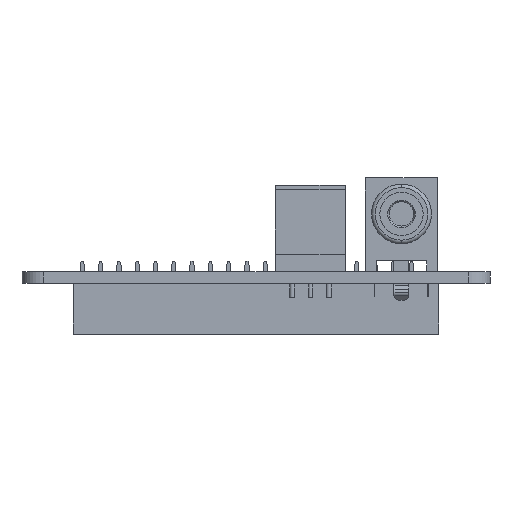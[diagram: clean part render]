
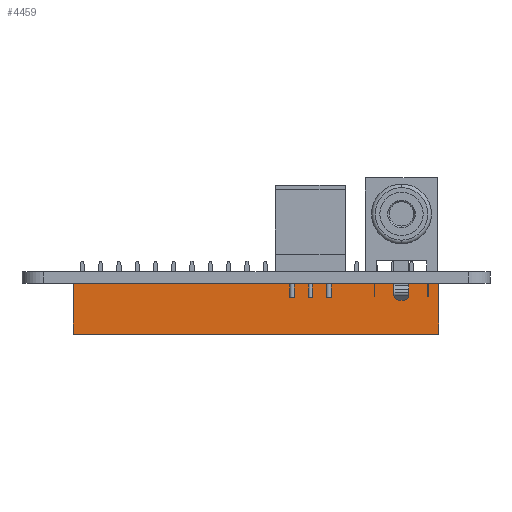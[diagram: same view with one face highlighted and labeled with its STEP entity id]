
A CAD part, front view. The second image highlights one B-rep face of the part: STEP entity #4459.
In plain terms, the highlighted planar face has unit normal (0, -1, 0) as drawn and (1, 0, 0) by its records, which use the part's own axes.
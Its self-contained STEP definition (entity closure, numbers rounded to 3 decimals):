
#4459 = ADVANCED_FACE('',(#4460),#4474,.F.);
#4460 = FACE_BOUND('',#4461,.F.);
#4461 = EDGE_LOOP('',(#4462,#4497,#4525,#4553));
#4462 = ORIENTED_EDGE('',*,*,#4463,.T.);
#4463 = EDGE_CURVE('',#4464,#4466,#4468,.T.);
#4464 = VERTEX_POINT('',#4465);
#4465 = CARTESIAN_POINT('',(1.27,-49.53,0.));
#4466 = VERTEX_POINT('',#4467);
#4467 = CARTESIAN_POINT('',(1.27,-49.53,7.));
#4468 = SURFACE_CURVE('',#4469,(#4473,#4485),.PCURVE_S1.);
#4469 = LINE('',#4470,#4471);
#4470 = CARTESIAN_POINT('',(1.27,-49.53,0.));
#4471 = VECTOR('',#4472,1.);
#4472 = DIRECTION('',(0.,0.,1.));
#4473 = PCURVE('',#4474,#4479);
#4474 = PLANE('',#4475);
#4475 = AXIS2_PLACEMENT_3D('',#4476,#4477,#4478);
#4476 = CARTESIAN_POINT('',(1.27,-49.53,0.));
#4477 = DIRECTION('',(-1.,0.,0.));
#4478 = DIRECTION('',(0.,1.,0.));
#4479 = DEFINITIONAL_REPRESENTATION('',(#4480),#4484);
#4480 = LINE('',#4481,#4482);
#4481 = CARTESIAN_POINT('',(0.,0.));
#4482 = VECTOR('',#4483,1.);
#4483 = DIRECTION('',(0.,-1.));
#4484 = ( GEOMETRIC_REPRESENTATION_CONTEXT(2) 
PARAMETRIC_REPRESENTATION_CONTEXT() REPRESENTATION_CONTEXT('2D SPACE',''
  ) );
#4485 = PCURVE('',#4486,#4491);
#4486 = PLANE('',#4487);
#4487 = AXIS2_PLACEMENT_3D('',#4488,#4489,#4490);
#4488 = CARTESIAN_POINT('',(-3.81,-49.53,0.));
#4489 = DIRECTION('',(0.,1.,0.));
#4490 = DIRECTION('',(1.,0.,0.));
#4491 = DEFINITIONAL_REPRESENTATION('',(#4492),#4496);
#4492 = LINE('',#4493,#4494);
#4493 = CARTESIAN_POINT('',(5.08,0.));
#4494 = VECTOR('',#4495,1.);
#4495 = DIRECTION('',(0.,-1.));
#4496 = ( GEOMETRIC_REPRESENTATION_CONTEXT(2) 
PARAMETRIC_REPRESENTATION_CONTEXT() REPRESENTATION_CONTEXT('2D SPACE',''
  ) );
#4497 = ORIENTED_EDGE('',*,*,#4498,.T.);
#4498 = EDGE_CURVE('',#4466,#4499,#4501,.T.);
#4499 = VERTEX_POINT('',#4500);
#4500 = CARTESIAN_POINT('',(1.27,1.27,7.));
#4501 = SURFACE_CURVE('',#4502,(#4506,#4513),.PCURVE_S1.);
#4502 = LINE('',#4503,#4504);
#4503 = CARTESIAN_POINT('',(1.27,-49.53,7.));
#4504 = VECTOR('',#4505,1.);
#4505 = DIRECTION('',(0.,1.,0.));
#4506 = PCURVE('',#4474,#4507);
#4507 = DEFINITIONAL_REPRESENTATION('',(#4508),#4512);
#4508 = LINE('',#4509,#4510);
#4509 = CARTESIAN_POINT('',(0.,-7.));
#4510 = VECTOR('',#4511,1.);
#4511 = DIRECTION('',(1.,0.));
#4512 = ( GEOMETRIC_REPRESENTATION_CONTEXT(2) 
PARAMETRIC_REPRESENTATION_CONTEXT() REPRESENTATION_CONTEXT('2D SPACE',''
  ) );
#4513 = PCURVE('',#4514,#4519);
#4514 = PLANE('',#4515);
#4515 = AXIS2_PLACEMENT_3D('',#4516,#4517,#4518);
#4516 = CARTESIAN_POINT('',(1.27,-49.53,7.));
#4517 = DIRECTION('',(-0.,0.,-1.));
#4518 = DIRECTION('',(0.,-1.,-0.));
#4519 = DEFINITIONAL_REPRESENTATION('',(#4520),#4524);
#4520 = LINE('',#4521,#4522);
#4521 = CARTESIAN_POINT('',(0.,0.));
#4522 = VECTOR('',#4523,1.);
#4523 = DIRECTION('',(-1.,0.));
#4524 = ( GEOMETRIC_REPRESENTATION_CONTEXT(2) 
PARAMETRIC_REPRESENTATION_CONTEXT() REPRESENTATION_CONTEXT('2D SPACE',''
  ) );
#4525 = ORIENTED_EDGE('',*,*,#4526,.F.);
#4526 = EDGE_CURVE('',#4527,#4499,#4529,.T.);
#4527 = VERTEX_POINT('',#4528);
#4528 = CARTESIAN_POINT('',(1.27,1.27,0.));
#4529 = SURFACE_CURVE('',#4530,(#4534,#4541),.PCURVE_S1.);
#4530 = LINE('',#4531,#4532);
#4531 = CARTESIAN_POINT('',(1.27,1.27,0.));
#4532 = VECTOR('',#4533,1.);
#4533 = DIRECTION('',(0.,0.,1.));
#4534 = PCURVE('',#4474,#4535);
#4535 = DEFINITIONAL_REPRESENTATION('',(#4536),#4540);
#4536 = LINE('',#4537,#4538);
#4537 = CARTESIAN_POINT('',(50.8,0.));
#4538 = VECTOR('',#4539,1.);
#4539 = DIRECTION('',(0.,-1.));
#4540 = ( GEOMETRIC_REPRESENTATION_CONTEXT(2) 
PARAMETRIC_REPRESENTATION_CONTEXT() REPRESENTATION_CONTEXT('2D SPACE',''
  ) );
#4541 = PCURVE('',#4542,#4547);
#4542 = PLANE('',#4543);
#4543 = AXIS2_PLACEMENT_3D('',#4544,#4545,#4546);
#4544 = CARTESIAN_POINT('',(1.27,1.27,0.));
#4545 = DIRECTION('',(0.,-1.,0.));
#4546 = DIRECTION('',(-1.,0.,0.));
#4547 = DEFINITIONAL_REPRESENTATION('',(#4548),#4552);
#4548 = LINE('',#4549,#4550);
#4549 = CARTESIAN_POINT('',(0.,0.));
#4550 = VECTOR('',#4551,1.);
#4551 = DIRECTION('',(0.,-1.));
#4552 = ( GEOMETRIC_REPRESENTATION_CONTEXT(2) 
PARAMETRIC_REPRESENTATION_CONTEXT() REPRESENTATION_CONTEXT('2D SPACE',''
  ) );
#4553 = ORIENTED_EDGE('',*,*,#4554,.F.);
#4554 = EDGE_CURVE('',#4464,#4527,#4555,.T.);
#4555 = SURFACE_CURVE('',#4556,(#4560,#4567),.PCURVE_S1.);
#4556 = LINE('',#4557,#4558);
#4557 = CARTESIAN_POINT('',(1.27,-49.53,0.));
#4558 = VECTOR('',#4559,1.);
#4559 = DIRECTION('',(0.,1.,0.));
#4560 = PCURVE('',#4474,#4561);
#4561 = DEFINITIONAL_REPRESENTATION('',(#4562),#4566);
#4562 = LINE('',#4563,#4564);
#4563 = CARTESIAN_POINT('',(0.,0.));
#4564 = VECTOR('',#4565,1.);
#4565 = DIRECTION('',(1.,0.));
#4566 = ( GEOMETRIC_REPRESENTATION_CONTEXT(2) 
PARAMETRIC_REPRESENTATION_CONTEXT() REPRESENTATION_CONTEXT('2D SPACE',''
  ) );
#4567 = PCURVE('',#4568,#4573);
#4568 = PLANE('',#4569);
#4569 = AXIS2_PLACEMENT_3D('',#4570,#4571,#4572);
#4570 = CARTESIAN_POINT('',(1.27,-49.53,0.));
#4571 = DIRECTION('',(-0.,0.,-1.));
#4572 = DIRECTION('',(0.,-1.,-0.));
#4573 = DEFINITIONAL_REPRESENTATION('',(#4574),#4578);
#4574 = LINE('',#4575,#4576);
#4575 = CARTESIAN_POINT('',(0.,0.));
#4576 = VECTOR('',#4577,1.);
#4577 = DIRECTION('',(-1.,0.));
#4578 = ( GEOMETRIC_REPRESENTATION_CONTEXT(2) 
PARAMETRIC_REPRESENTATION_CONTEXT() REPRESENTATION_CONTEXT('2D SPACE',''
  ) );
